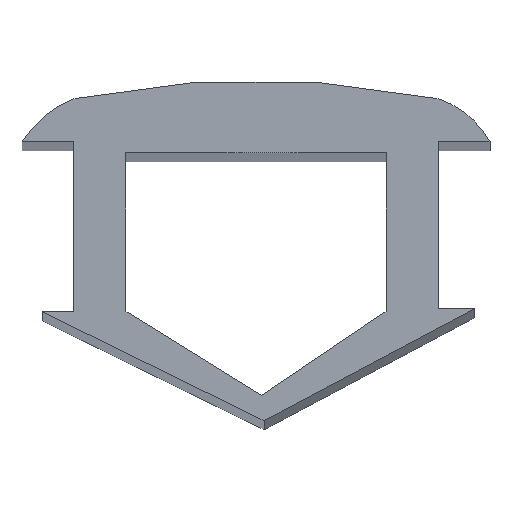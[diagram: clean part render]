
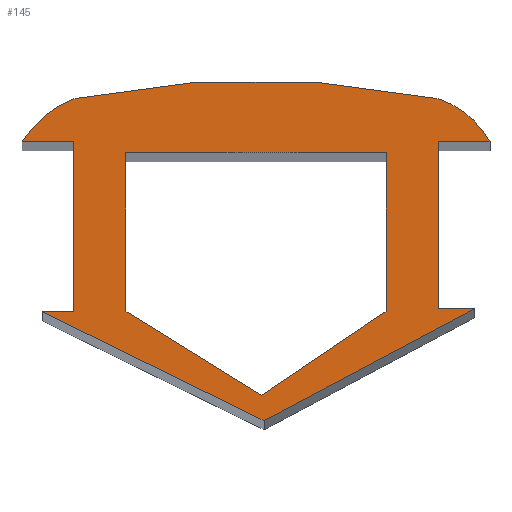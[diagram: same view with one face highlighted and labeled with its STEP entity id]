
A CAD part, top view. The second image highlights one B-rep face of the part: STEP entity #145.
In plain terms, the highlighted planar face has unit normal (0, 0, 1).
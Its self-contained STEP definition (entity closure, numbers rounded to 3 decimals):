
#2 = DIRECTION ( 'NONE',  ( 0., 0., -1. ) ) ;
#7 = VERTEX_POINT ( 'NONE', #476 ) ;
#13 = VECTOR ( 'NONE', #300, 1000. ) ;
#14 = EDGE_CURVE ( 'NONE', #44, #7, #541, .T. ) ;
#23 = VERTEX_POINT ( 'NONE', #212 ) ;
#24 = CARTESIAN_POINT ( 'NONE',  ( -65.553, -2.195, 150. ) ) ;
#31 = EDGE_CURVE ( 'NONE', #438, #23, #272, .T. ) ;
#42 = AXIS2_PLACEMENT_3D ( 'NONE', #377, #119, #51 ) ;
#43 = LINE ( 'NONE', #620, #182 ) ;
#44 = VERTEX_POINT ( 'NONE', #396 ) ;
#51 = DIRECTION ( 'NONE',  ( -1., 0., 0. ) ) ;
#56 = DIRECTION ( 'NONE',  ( -1., 0., 0. ) ) ;
#59 = VERTEX_POINT ( 'NONE', #577 ) ;
#64 = CARTESIAN_POINT ( 'NONE',  ( -65.553, -2.195, 150. ) ) ;
#68 = CARTESIAN_POINT ( 'NONE',  ( -73.421, -3.519, 150. ) ) ;
#77 = DIRECTION ( 'NONE',  ( 1., 0., 0. ) ) ;
#81 = VECTOR ( 'NONE', #485, 1000. ) ;
#112 = VECTOR ( 'NONE', #231, 1000. ) ;
#113 = CARTESIAN_POINT ( 'NONE',  ( -74.553, -0.633, 150. ) ) ;
#119 = DIRECTION ( 'NONE',  ( 0., 0., 1. ) ) ;
#123 = CARTESIAN_POINT ( 'NONE',  ( -74.553, -6.785, 150. ) ) ;
#124 = VECTOR ( 'NONE', #77, 1000. ) ;
#125 = VERTEX_POINT ( 'NONE', #216 ) ;
#128 = ORIENTED_EDGE ( 'NONE', *, *, #501, .T. ) ;
#132 = LINE ( 'NONE', #64, #617 ) ;
#135 = EDGE_CURVE ( 'NONE', #602, #254, #638, .T. ) ;
#136 = CARTESIAN_POINT ( 'NONE',  ( -74.553, -6.785, 150. ) ) ;
#138 = DIRECTION ( 'NONE',  ( -1., 0., 0. ) ) ;
#141 = VERTEX_POINT ( 'NONE', #136 ) ;
#144 = CARTESIAN_POINT ( 'NONE',  ( -64.053, -1.881, 150. ) ) ;
#145 = ADVANCED_FACE ( 'NONE', ( #505, #470 ), #401, .F. ) ;
#163 = CARTESIAN_POINT ( 'NONE',  ( -69.072, -9.919, 150. ) ) ;
#172 = ORIENTED_EDGE ( 'NONE', *, *, #135, .T. ) ;
#182 = VECTOR ( 'NONE', #557, 1000. ) ;
#187 = LINE ( 'NONE', #123, #609 ) ;
#197 = CIRCLE ( 'NONE', #348, 26.431 ) ;
#199 = LINE ( 'NONE', #514, #635 ) ;
#201 = VECTOR ( 'NONE', #304, 1000. ) ;
#203 = CARTESIAN_POINT ( 'NONE',  ( -73.053, -2.195, 150. ) ) ;
#207 = VERTEX_POINT ( 'NONE', #163 ) ;
#208 = CARTESIAN_POINT ( 'NONE',  ( -64.053, -6.695, 150. ) ) ;
#212 = CARTESIAN_POINT ( 'NONE',  ( -62.553, -1.881, 150. ) ) ;
#216 = CARTESIAN_POINT ( 'NONE',  ( -74.553, -1.881, 150. ) ) ;
#224 = VERTEX_POINT ( 'NONE', #410 ) ;
#231 = DIRECTION ( 'NONE',  ( 0., -1., 0. ) ) ;
#235 = LINE ( 'NONE', #551, #81 ) ;
#241 = VERTEX_POINT ( 'NONE', #397 ) ;
#242 = ORIENTED_EDGE ( 'NONE', *, *, #379, .T. ) ;
#251 = EDGE_CURVE ( 'NONE', #406, #632, #132, .T. ) ;
#254 = VERTEX_POINT ( 'NONE', #578 ) ;
#263 = EDGE_CURVE ( 'NONE', #241, #571, #199, .T. ) ;
#272 = LINE ( 'NONE', #144, #124 ) ;
#279 = EDGE_CURVE ( 'NONE', #23, #224, #544, .T. ) ;
#288 = ORIENTED_EDGE ( 'NONE', *, *, #394, .F. ) ;
#291 = EDGE_CURVE ( 'NONE', #59, #44, #362, .T. ) ;
#296 = CARTESIAN_POINT ( 'NONE',  ( -73.053, -6.772, 150. ) ) ;
#300 = DIRECTION ( 'NONE',  ( 0.83, 0.558, 0. ) ) ;
#303 = ORIENTED_EDGE ( 'NONE', *, *, #291, .F. ) ;
#304 = DIRECTION ( 'NONE',  ( 0., 1., 0. ) ) ;
#305 = VERTEX_POINT ( 'NONE', #549 ) ;
#321 = ORIENTED_EDGE ( 'NONE', *, *, #14, .F. ) ;
#339 = DIRECTION ( 'NONE',  ( -1., 0., 0. ) ) ;
#341 = DIRECTION ( 'NONE',  ( 0.849, -0.528, 0. ) ) ;
#348 = AXIS2_PLACEMENT_3D ( 'NONE', #472, #407, #339 ) ;
#349 = EDGE_CURVE ( 'NONE', #632, #59, #468, .T. ) ;
#357 = ORIENTED_EDGE ( 'NONE', *, *, #31, .T. ) ;
#362 = LINE ( 'NONE', #296, #112 ) ;
#365 = CARTESIAN_POINT ( 'NONE',  ( -65.553, -6.772, 150. ) ) ;
#369 = CARTESIAN_POINT ( 'NONE',  ( -64.053, -6.695, 150. ) ) ;
#377 = CARTESIAN_POINT ( 'NONE',  ( -64.881, -3.155, 150. ) ) ;
#379 = EDGE_CURVE ( 'NONE', #141, #305, #187, .T. ) ;
#380 = EDGE_CURVE ( 'NONE', #207, #241, #567, .T. ) ;
#394 = EDGE_CURVE ( 'NONE', #7, #406, #631, .T. ) ;
#396 = CARTESIAN_POINT ( 'NONE',  ( -73.053, -6.772, 150. ) ) ;
#397 = CARTESIAN_POINT ( 'NONE',  ( -63.013, -6.695, 150. ) ) ;
#401 = PLANE ( 'NONE',  #536 ) ;
#406 = VERTEX_POINT ( 'NONE', #615 ) ;
#407 = DIRECTION ( 'NONE',  ( 0., 0., 1. ) ) ;
#408 = ORIENTED_EDGE ( 'NONE', *, *, #610, .T. ) ;
#409 = CARTESIAN_POINT ( 'NONE',  ( -69.153, -9.195, 150. ) ) ;
#410 = CARTESIAN_POINT ( 'NONE',  ( -64.053, -0.633, 150. ) ) ;
#412 = EDGE_CURVE ( 'NONE', #305, #207, #235, .T. ) ;
#434 = DIRECTION ( 'NONE',  ( 0.883, 0.47, 0. ) ) ;
#435 = AXIS2_PLACEMENT_3D ( 'NONE', #596, #530, #467 ) ;
#437 = LINE ( 'NONE', #369, #201 ) ;
#438 = VERTEX_POINT ( 'NONE', #599 ) ;
#439 = DIRECTION ( 'NONE',  ( 0., -1., 0. ) ) ;
#440 = ORIENTED_EDGE ( 'NONE', *, *, #251, .F. ) ;
#441 = EDGE_LOOP ( 'NONE', ( #303, #539, #440, #288, #321 ) ) ;
#446 = DIRECTION ( 'NONE',  ( -1., 0., 0. ) ) ;
#450 = VECTOR ( 'NONE', #439, 1000. ) ;
#460 = ORIENTED_EDGE ( 'NONE', *, *, #263, .T. ) ;
#467 = DIRECTION ( 'NONE',  ( -1., 0., 0. ) ) ;
#468 = LINE ( 'NONE', #203, #478 ) ;
#470 = FACE_BOUND ( 'NONE', #441, .T. ) ;
#472 = CARTESIAN_POINT ( 'NONE',  ( -69.303, -26.537, 150. ) ) ;
#476 = CARTESIAN_POINT ( 'NONE',  ( -69.153, -9.195, 150. ) ) ;
#478 = VECTOR ( 'NONE', #138, 1000. ) ;
#485 = DIRECTION ( 'NONE',  ( 0.898, -0.441, 0. ) ) ;
#491 = EDGE_LOOP ( 'NONE', ( #616, #242, #511, #537, #460, #128, #357, #492, #584, #172, #408 ) ) ;
#492 = ORIENTED_EDGE ( 'NONE', *, *, #279, .T. ) ;
#501 = EDGE_CURVE ( 'NONE', #571, #438, #437, .T. ) ;
#503 = CARTESIAN_POINT ( 'NONE',  ( -69.072, -9.919, 150. ) ) ;
#505 = FACE_OUTER_BOUND ( 'NONE', #491, .T. ) ;
#509 = CARTESIAN_POINT ( 'NONE',  ( -74.553, -2.785, 150. ) ) ;
#511 = ORIENTED_EDGE ( 'NONE', *, *, #412, .T. ) ;
#514 = CARTESIAN_POINT ( 'NONE',  ( -63.013, -6.695, 150. ) ) ;
#530 = DIRECTION ( 'NONE',  ( 0., 0., 1. ) ) ;
#536 = AXIS2_PLACEMENT_3D ( 'NONE', #68, #2, #582 ) ;
#537 = ORIENTED_EDGE ( 'NONE', *, *, #380, .T. ) ;
#539 = ORIENTED_EDGE ( 'NONE', *, *, #349, .F. ) ;
#541 = LINE ( 'NONE', #409, #574 ) ;
#544 = CIRCLE ( 'NONE', #42, 2.654 ) ;
#549 = CARTESIAN_POINT ( 'NONE',  ( -75.458, -6.785, 150. ) ) ;
#551 = CARTESIAN_POINT ( 'NONE',  ( -75.458, -6.785, 150. ) ) ;
#557 = DIRECTION ( 'NONE',  ( 1., 0., 0. ) ) ;
#562 = EDGE_CURVE ( 'NONE', #224, #602, #197, .T. ) ;
#567 = LINE ( 'NONE', #503, #641 ) ;
#571 = VERTEX_POINT ( 'NONE', #208 ) ;
#573 = LINE ( 'NONE', #509, #450 ) ;
#574 = VECTOR ( 'NONE', #341, 1000. ) ;
#577 = CARTESIAN_POINT ( 'NONE',  ( -73.053, -2.195, 150. ) ) ;
#578 = CARTESIAN_POINT ( 'NONE',  ( -76.053, -1.881, 150. ) ) ;
#582 = DIRECTION ( 'NONE',  ( -1., 0., 0. ) ) ;
#584 = ORIENTED_EDGE ( 'NONE', *, *, #562, .T. ) ;
#591 = EDGE_CURVE ( 'NONE', #125, #141, #573, .T. ) ;
#596 = CARTESIAN_POINT ( 'NONE',  ( -73.421, -3.519, 150. ) ) ;
#599 = CARTESIAN_POINT ( 'NONE',  ( -64.053, -1.881, 150. ) ) ;
#602 = VERTEX_POINT ( 'NONE', #113 ) ;
#609 = VECTOR ( 'NONE', #56, 1000. ) ;
#610 = EDGE_CURVE ( 'NONE', #254, #125, #43, .T. ) ;
#615 = CARTESIAN_POINT ( 'NONE',  ( -65.553, -6.772, 150. ) ) ;
#616 = ORIENTED_EDGE ( 'NONE', *, *, #591, .T. ) ;
#617 = VECTOR ( 'NONE', #640, 1000. ) ;
#620 = CARTESIAN_POINT ( 'NONE',  ( -74.553, -1.881, 150. ) ) ;
#631 = LINE ( 'NONE', #365, #13 ) ;
#632 = VERTEX_POINT ( 'NONE', #24 ) ;
#635 = VECTOR ( 'NONE', #446, 1000. ) ;
#638 = CIRCLE ( 'NONE', #435, 3.1 ) ;
#640 = DIRECTION ( 'NONE',  ( 0., 1., 0. ) ) ;
#641 = VECTOR ( 'NONE', #434, 1000. ) ;
